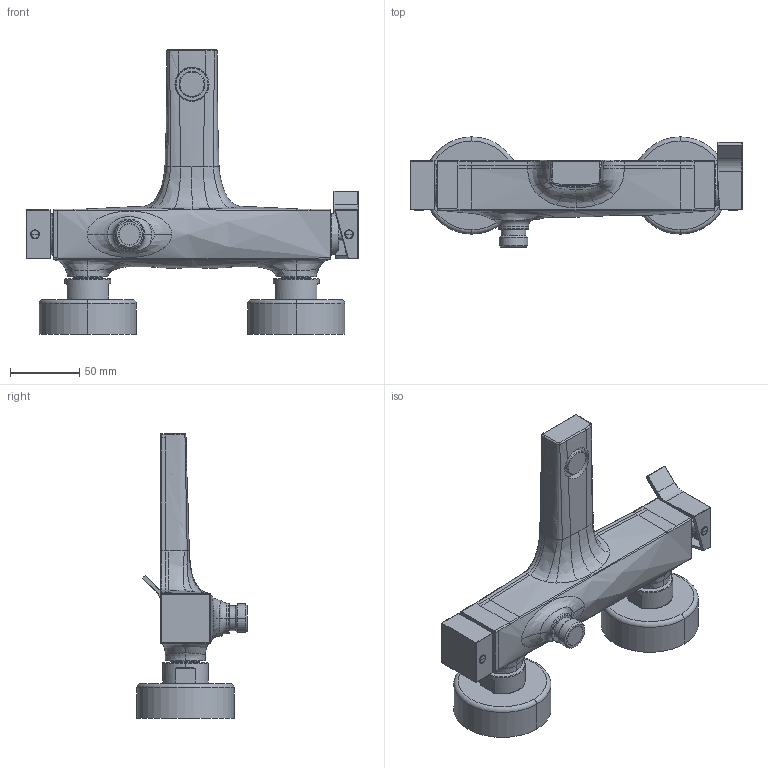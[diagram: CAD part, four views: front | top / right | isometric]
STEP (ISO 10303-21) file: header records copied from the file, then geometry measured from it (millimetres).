
FILE_DESCRIPTION((''),'2;1');
FILE_NAME('3D_SW0001','2012-10-18T',('ivanv'),(''),'PRO/ENGINEER BY PARAMETRIC TECHNOLOGY CORPORATION, 2011370','PRO/ENGINEER BY PARAMETRIC TECHNOLOGY CORPORATION, 2011370','');
FILE_SCHEMA(('CONFIG_CONTROL_DESIGN'));
Length unit declared in the file: millimetre
Products named in the file (1): 3D_SW0001
Bounding box: 239 x 79.5 x 205.1 mm (x, y, z)
Volume: 666191.7 mm3; surface area: 87427.9 mm2
Topology: 1 solids, 2 shells, 566 faces, 1391 edges, 850 vertices
Faces by surface type: plane 209, cylinder 127, bspline 97, torus 48, sphere 47, extrusion 22, cone 16
Entity records: 24363 total; most frequent: CARTESIAN_POINT 11753, ORIENTED_EDGE 2770, DIRECTION 2350, EDGE_CURVE 1385, VERTEX_POINT 850, AXIS2_PLACEMENT_3D 824, VECTOR 702, LINE 680
